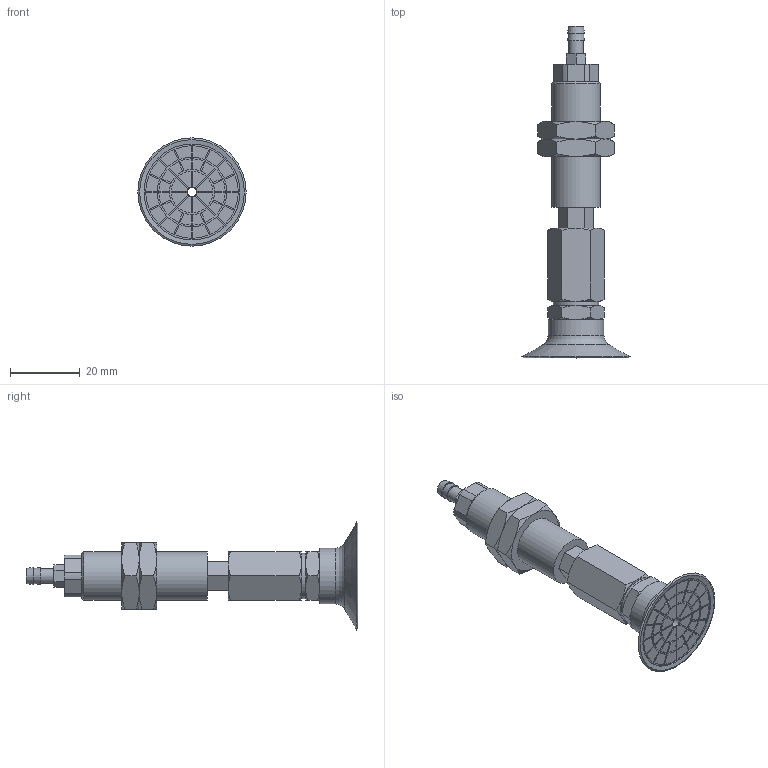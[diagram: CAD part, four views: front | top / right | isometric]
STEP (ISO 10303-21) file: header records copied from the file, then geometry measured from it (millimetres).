
FILE_DESCRIPTION(('STEP AP203'),'1');
FILE_NAME('-T.stp','2025-08-26T08:09:49',(' '),(' '),'Spatial InterOp 3D',' ',' ');
FILE_SCHEMA(('CONFIG_CONTROL_DESIGN'));
Length unit declared in the file: millimetre
Products named in the file (8): BNABPATH-30B-6-※-T; NAPATH-30-6--M; ADAPTER; Nut-25-S; NAPATH-30-6--F; BPAG-30B-※; TN-PA-30B-M6; T
Assembly tree (8 placements, depth 2):
  BNABPATH-30B-6-※-T
    NAPATH-30-6--M
    ADAPTER
    Nut-25-S  x2
    NAPATH-30-6--F
    BPAG-30B-※
    TN-PA-30B-M6
    T
Bounding box: 31.04 x 95.2 x 31.04 mm (x, y, z)
Volume: 15414.1 mm3; surface area: 12004.9 mm2
Topology: 8 solids, 8 shells, 376 faces, 877 edges, 562 vertices
Faces by surface type: plane 209, cylinder 98, cone 63, torus 6
Full cylindrical faces by diameter (mm): 2.5 x1, 3 x4, 4.134 x1, 4.3 x1, 4.917 x1, 5 x1, 6 x3, 10 x2, 12.917 x2, 13 x1, 14 x1, 16 x1, 27.5 x1
Entity records: 10503 total; most frequent: CARTESIAN_POINT 2056, DIRECTION 1705, ORIENTED_EDGE 1566, EDGE_CURVE 783, AXIS2_PLACEMENT_3D 632, VERTEX_POINT 527, EDGE_LOOP 450, LINE 441
